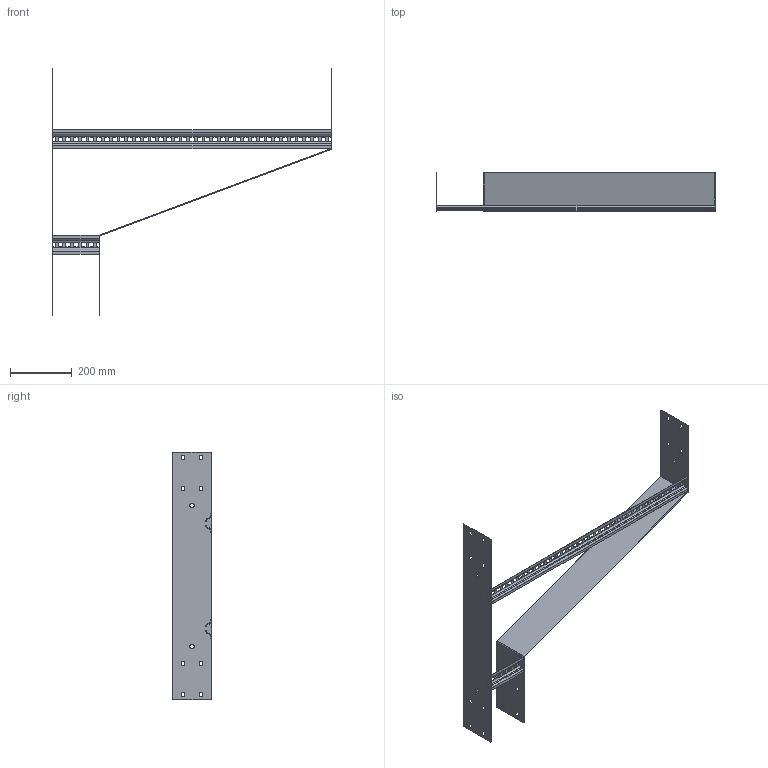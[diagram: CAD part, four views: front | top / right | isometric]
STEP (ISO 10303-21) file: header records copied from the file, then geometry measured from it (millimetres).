
FILE_DESCRIPTION (( 'STEP AP203' ), '1' );
FILE_NAME ('N3 LHR900150.STEP', '2024-08-27T06:19:53', ( '' ), ( '' ), 'SwSTEP 2.0', 'SolidWorks 2023', '' );
FILE_SCHEMA (( 'CONFIG_CONTROL_DESIGN' ));
Length unit declared in the file: millimetre
Products named in the file (5): N3 Back Plate_800; N3 Reducer side plate_LHR150x900; Ladder Rung_Ladder Rung -  900mm; N3 LHR900150; Ladder Rung_Ladder Rung -  150mm
Assembly tree (4 placements, depth 2):
  N3 LHR900150
    N3 Reducer side plate_LHR150x900
    Ladder Rung_Ladder Rung -  150mm
    Ladder Rung_Ladder Rung -  900mm
    N3 Back Plate_800
Bounding box: 904 x 124 x 800 mm (x, y, z)
Volume: 631897.7 mm3; surface area: 678916.4 mm2
Topology: 4 solids, 4 shells, 352 faces, 952 edges, 608 vertices
Faces by surface type: plane 324, cylinder 28
Entity records: 11535 total; most frequent: CARTESIAN_POINT 1919, ORIENTED_EDGE 1904, DIRECTION 1726, EDGE_CURVE 952, LINE 896, VECTOR 896, VERTEX_POINT 608, EDGE_LOOP 472
